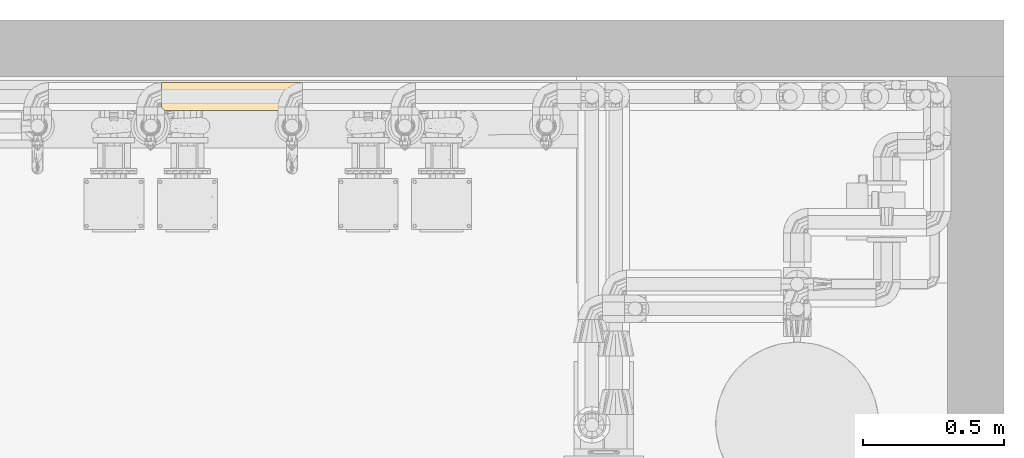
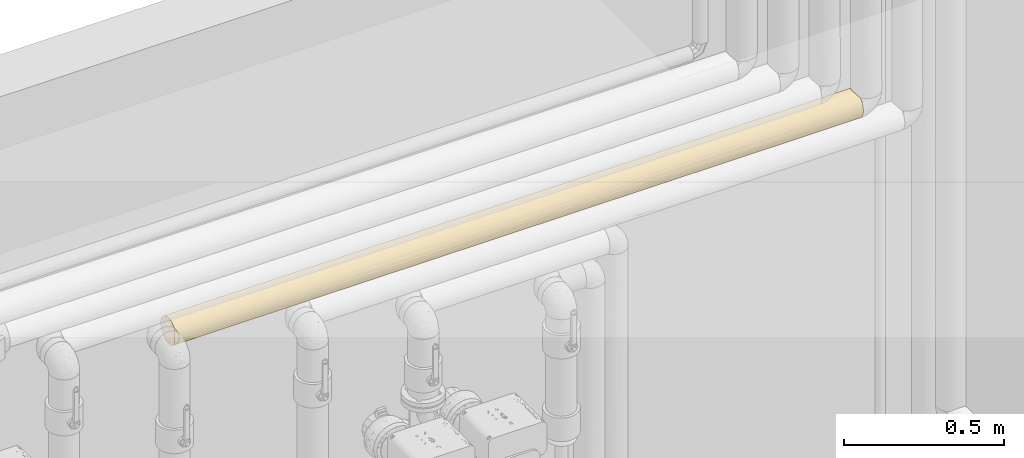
# One storey, part 7 of 94: 1 covering.
"""IFC2X3 building model written with IfcOpenShell, lengths in millimetres."""

from ifc_helpers import new_model, entity, si_unit, converted_unit, derived_unit, direction, frame, origin, place, context, subcontext, project, spatial, faceted_brep, material, element, save


model = new_model("IFC2X3")

# Units and contexts
model_context = context("Model", 3, precision=0.01, world=origin(), true_north=direction((6.123031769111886e-17, 1.0)))
body_context = subcontext(model_context, "Body", "Model", "MODEL_VIEW")
ifc_project = project(units=[si_unit("LENGTHUNIT", "METRE", prefix="MILLI"), si_unit("AREAUNIT", "SQUARE_METRE"), si_unit("VOLUMEUNIT", "CUBIC_METRE"), converted_unit("PLANEANGLEUNIT", "DEGREE", entity("IfcRatioMeasure", 0.017453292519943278), si_unit("PLANEANGLEUNIT", "RADIAN"), dimensions=[0, 0, 0, 0, 0, 0, 0]), si_unit("MASSUNIT", "GRAM", prefix="KILO"), derived_unit("MASSDENSITYUNIT", [(si_unit("MASSUNIT", "GRAM", prefix="KILO"), 1), (si_unit("LENGTHUNIT", "METRE"), -3)]), derived_unit("IONCONCENTRATIONUNIT", [(si_unit("MASSUNIT", "GRAM", prefix="KILO"), 1), (si_unit("LENGTHUNIT", "METRE"), -3)]), derived_unit("MOMENTOFINERTIAUNIT", [(si_unit("LENGTHUNIT", "METRE"), 4)]), si_unit("TIMEUNIT", "SECOND"), si_unit("FREQUENCYUNIT", "HERTZ"), si_unit("THERMODYNAMICTEMPERATUREUNIT", "DEGREE_CELSIUS"), derived_unit("THERMALTRANSMITTANCEUNIT", [(si_unit("MASSUNIT", "GRAM", prefix="KILO"), 1), (si_unit("THERMODYNAMICTEMPERATUREUNIT", "KELVIN"), -1), (si_unit("TIMEUNIT", "SECOND"), -3)]), derived_unit("THERMALCONDUCTANCEUNIT", [(si_unit("MASSUNIT", "GRAM", prefix="KILO"), 1), (si_unit("THERMODYNAMICTEMPERATUREUNIT", "KELVIN"), -1), (si_unit("TIMEUNIT", "SECOND"), -3), (si_unit("LENGTHUNIT", "METRE"), 1)]), derived_unit("VOLUMETRICFLOWRATEUNIT", [(si_unit("LENGTHUNIT", "METRE"), 3), (si_unit("TIMEUNIT", "SECOND"), -1)]), derived_unit("MASSFLOWRATEUNIT", [(si_unit("MASSUNIT", "GRAM", prefix="KILO"), 1), (si_unit("TIMEUNIT", "SECOND"), -1)]), derived_unit("ROTATIONALFREQUENCYUNIT", [(si_unit("TIMEUNIT", "SECOND"), -1)]), si_unit("ELECTRICCURRENTUNIT", "AMPERE"), si_unit("ELECTRICVOLTAGEUNIT", "VOLT"), si_unit("POWERUNIT", "WATT"), si_unit("FORCEUNIT", "NEWTON", prefix="KILO"), si_unit("ILLUMINANCEUNIT", "LUX"), si_unit("LUMINOUSFLUXUNIT", "LUMEN"), si_unit("LUMINOUSINTENSITYUNIT", "CANDELA"), derived_unit("USERDEFINED", [(si_unit("MASSUNIT", "GRAM", prefix="KILO"), -1), (si_unit("LENGTHUNIT", "METRE"), -2), (si_unit("TIMEUNIT", "SECOND"), 3), (si_unit("LUMINOUSFLUXUNIT", "LUMEN"), 1)]), derived_unit("USERDEFINED", [(si_unit("MASSUNIT", "GRAM", prefix="KILO"), 1), (si_unit("TIMEUNIT", "SECOND"), -3), (si_unit("LENGTHUNIT", "METRE"), 3), (si_unit("ELECTRICCURRENTUNIT", "AMPERE"), -2)]), derived_unit("SOUNDPOWERUNIT", [(si_unit("MASSUNIT", "GRAM", prefix="KILO"), 1), (si_unit("TIMEUNIT", "SECOND"), -3), (si_unit("LENGTHUNIT", "METRE"), 2)]), derived_unit("SOUNDPRESSUREUNIT", [(si_unit("MASSUNIT", "GRAM", prefix="KILO"), 1), (si_unit("LENGTHUNIT", "METRE"), -1), (si_unit("TIMEUNIT", "SECOND"), -2)]), derived_unit("LINEARVELOCITYUNIT", [(si_unit("LENGTHUNIT", "METRE"), 1), (si_unit("TIMEUNIT", "SECOND"), -1)]), si_unit("PRESSUREUNIT", "PASCAL"), derived_unit("USERDEFINED", [(si_unit("MASSUNIT", "GRAM", prefix="KILO"), 1), (si_unit("LENGTHUNIT", "METRE"), -2), (si_unit("TIMEUNIT", "SECOND"), -2)]), derived_unit("LINEARFORCEUNIT", [(si_unit("MASSUNIT", "GRAM", prefix="KILO"), 1), (si_unit("TIMEUNIT", "SECOND"), -2)]), derived_unit("PLANARFORCEUNIT", [(si_unit("MASSUNIT", "GRAM", prefix="KILO"), 1), (si_unit("LENGTHUNIT", "METRE"), -1), (si_unit("TIMEUNIT", "SECOND"), -2)]), derived_unit("SPECIFICHEATCAPACITYUNIT", [(si_unit("THERMODYNAMICTEMPERATUREUNIT", "KELVIN"), -1), (si_unit("LENGTHUNIT", "METRE"), 2), (si_unit("TIMEUNIT", "SECOND"), -2)]), derived_unit("HEATINGVALUEUNIT", [(si_unit("LENGTHUNIT", "METRE"), 2), (si_unit("TIMEUNIT", "SECOND"), -2)]), derived_unit("VAPORPERMEABILITYUNIT", [(si_unit("LENGTHUNIT", "METRE"), -1), (si_unit("TIMEUNIT", "SECOND"), 1)]), derived_unit("DYNAMICVISCOSITYUNIT", [(si_unit("MASSUNIT", "GRAM", prefix="KILO"), 1), (si_unit("TIMEUNIT", "SECOND"), -1), (si_unit("LENGTHUNIT", "METRE"), -1)]), derived_unit("THERMALEXPANSIONCOEFFICIENTUNIT", [(si_unit("THERMODYNAMICTEMPERATUREUNIT", "KELVIN"), -1)]), derived_unit("MODULUSOFELASTICITYUNIT", [(si_unit("MASSUNIT", "GRAM", prefix="KILO"), 1), (si_unit("LENGTHUNIT", "METRE"), -1), (si_unit("TIMEUNIT", "SECOND"), -2)]), derived_unit("ISOTHERMALMOISTURECAPACITYUNIT", [(si_unit("LENGTHUNIT", "METRE"), 3), (si_unit("MASSUNIT", "GRAM", prefix="KILO"), -1)]), derived_unit("MOISTUREDIFFUSIVITYUNIT", [(si_unit("TIMEUNIT", "SECOND"), -1), (si_unit("LENGTHUNIT", "METRE"), 2)])], contexts=[model_context])

# Site, building, storey
site_placement = place(None, origin())
site = spatial("IfcSite", under=ifc_project, at=site_placement, Name="Default", CompositionType="ELEMENT")
building_placement = place(site_placement, origin())
building = spatial("IfcBuilding", under=site, at=building_placement, CompositionType="ELEMENT")
storey_placement = place(building_placement, origin())
storey = spatial("IfcBuildingStorey", under=building, at=storey_placement, Name="Niveau 0", CompositionType="ELEMENT", Elevation=0.0)

# Covering
ifc_material = material(Name="Isolation - Laine minérale")
covering_placement = place(storey_placement, frame((-8535.741137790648, 9976.120352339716, 2600.7252722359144)))
element("IfcCovering", 1, at=covering_placement, inside=storey, material=ifc_material, Name="Isolation des canalisations:Laine minérale", ObjectType="Isolation des canalisations:Laine minérale", PredefinedType="INSULATION", context=body_context, shape_type="Brep", body=[
    faceted_brep([(1.5952722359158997, 20.474956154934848, -89.43799982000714), (1.5952722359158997, 12.725272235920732, -81.8661922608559), (1.5952722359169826, 12.725272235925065, -19.584352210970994), (1.5952722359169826, 20.474956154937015, -12.012544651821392), (1.5952722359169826, 29.696487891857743, -6.323164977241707), (1.5952722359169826, 39.940498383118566, -2.7935963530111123), (1.5952722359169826, 50.72527223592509, -1.5952722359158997), (1.5952722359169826, 63.44105192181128, -3.26933639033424), (1.5952722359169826, 75.29027223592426, -8.177444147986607), (1.5952722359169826, 85.46542839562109, -15.985116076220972), (1.5952722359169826, 93.27310032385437, -26.160272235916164), (1.5952722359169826, 98.18120808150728, -38.00949255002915), (1.5952722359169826, 99.85527223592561, -50.72527223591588), (1.5952722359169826, 98.18120808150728, -63.44105192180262), (1.5952722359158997, 93.27310032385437, -75.29027223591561), (1.5952722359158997, 85.46542839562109, -85.4654283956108), (1.5952722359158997, 75.29027223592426, -93.27310032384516), (1.5952722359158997, 63.44105192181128, -98.18120808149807), (1.5952722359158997, 50.72527223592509, -99.85527223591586), (1.5952722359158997, 39.94049838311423, -98.65694811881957), (1.5952722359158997, 29.69648789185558, -95.12737949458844), (2488.5688247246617, 2.7935963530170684, -39.94049838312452), (2488.5688247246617, 1.5952722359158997, -50.725272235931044), (2488.5688247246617, 3.26933639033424, -63.441051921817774), (2488.5688247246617, 8.17744414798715, -75.29027223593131), (2488.5688247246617, 15.98511607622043, -85.46542839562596), (2488.5688247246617, 26.160272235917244, -93.27310032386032), (2488.5688247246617, 38.00949255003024, -98.18120808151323), (2488.5688247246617, 50.72527223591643, -99.85527223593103), (2488.5688247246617, 63.44105192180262, -98.18120808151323), (2488.5688247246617, 75.29027223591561, -93.27310032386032), (2488.5688247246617, 85.46542839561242, -85.46542839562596), (2488.5688247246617, 93.2731003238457, -75.29027223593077), (2488.5688247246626, 98.18120808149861, -63.441051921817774), (2488.5688247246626, 99.85527223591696, -50.725272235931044), (2488.5688247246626, 98.65694811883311, -39.94049838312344), (2488.5688247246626, 95.12737949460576, -29.696487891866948), (2488.5688247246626, 89.43799982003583, -20.474956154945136), (2488.5688247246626, 81.86619226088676, -12.72527223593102), (2488.5688247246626, 19.58435221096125, -12.72527223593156), (2488.5688247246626, 12.012544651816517, -20.474956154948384), (2488.5688247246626, 6.323164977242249, -29.69648789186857), (1575.5464992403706, 98.2839806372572, -63.051105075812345), (1480.0205499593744, 94.74893340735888, -72.53522769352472), (1245.082059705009, 97.40409833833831, -66.04989600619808), (895.5550591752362, 97.65590870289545, -65.26047986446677), (980.5685888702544, 99.85527223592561, -50.725272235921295), (2199.2185860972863, 96.11547365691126, -69.52650929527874), (2087.232544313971, 89.70272180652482, -80.63372129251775), (1853.8753267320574, 96.11547364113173, -69.52650933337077), (290.94551312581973, 69.52650923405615, -96.11547368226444), (1907.1537795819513, 98.94398934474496, -60.14398872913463), (1999.0821664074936, 99.85527223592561, -50.72527223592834), (2198.228900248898, 99.13030016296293, -59.13420625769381), (335.0887098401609, 89.7027217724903, -80.63372133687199), (686.7415258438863, 86.8168293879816, -84.05928493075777), (402.9315564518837, 80.63372118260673, -89.70272189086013), (636.2887755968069, 69.52650920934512, -96.11547369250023), (1726.7221383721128, 80.63372113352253, -89.70272192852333), (2155.075390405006, 80.63372119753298, -89.70272187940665), (2037.6739104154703, 69.52650919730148, -96.11547369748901), (583.0103232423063, 60.14398863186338, -98.94398936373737), (935.234132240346, 62.92499750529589, -98.31648574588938), (1509.5956845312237, 50.725272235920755, -99.85527223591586), (1377.3387830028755, 60.02615923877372, -98.96685596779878), (1691.929162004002, 59.44445166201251, -99.07537885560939), (491.08193055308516, 99.85527223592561, -50.725272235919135), (293.27910958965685, 99.12007721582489, -59.19284278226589), (491.08202821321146, 50.72527223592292, -99.85527223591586), (291.93519931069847, 59.134206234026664, -99.13030016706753), (255.3186657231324, 96.11547360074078, -69.52650943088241), (2179.701363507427, 59.941457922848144, -98.98310912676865), (1351.5438391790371, 84.07308961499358, -86.80407454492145), (1257.4003927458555, 77.20650238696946, -92.10765193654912), (996.5654735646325, 79.33498829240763, -90.66574102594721), (1245.0820514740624, 68.9906709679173, -96.33373755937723), (571.4103758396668, 96.11547354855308, -69.52650955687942), (582.3453862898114, 98.95894513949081, -60.067097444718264), (1656.4315539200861, 90.1667021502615, -80.0191368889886), (1999.0824405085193, 50.72527223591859, -99.85527223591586), (1632.510160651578, 69.55215779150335, -96.1048412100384), (697.3796719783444, 79.16913960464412, -90.78402045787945), (826.926857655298, 93.73074233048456, -74.4799863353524), (583.0533996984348, 91.91602984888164, -77.50359158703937), (1038.3943429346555, 89.70272172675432, -80.63372139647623), (903.2354739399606, 71.7078331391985, -95.14924141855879), (1384.0998699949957, 90.2211719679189, -79.9456556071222), (1509.5955080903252, 99.85527223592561, -50.72527223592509), (1245.082048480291, 99.85527223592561, -50.72527223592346), (980.5687841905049, 50.725272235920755, -99.85527223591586), (1245.0824202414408, 50.72527223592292, -99.85527223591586), (2199.218585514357, 5.335070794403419, -69.52650924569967), (2198.228898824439, 2.3202443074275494, -59.134206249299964), (1907.153776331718, 2.5065551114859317, -60.143988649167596), (2087.232543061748, 11.747822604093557, -80.63372121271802), (502.21192770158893, 1.5952722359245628, -50.725272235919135), (746.9552548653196, 2.8295993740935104, -61.6688283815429), (991.6985831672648, 1.5952722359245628, -50.72527223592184), (349.1927971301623, 2.70167345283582, -61.09305212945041), (12.725272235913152, 1.5952722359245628, -50.72527223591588), (982.6109476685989, 4.013662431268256, -65.9496740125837), (1250.6460500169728, 1.5952722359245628, -50.72527223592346), (1999.0821692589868, 1.5952722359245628, -50.7252722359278), (2000.4422411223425, 31.924035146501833, -96.11547364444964), (2155.0753892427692, 20.81682319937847, -89.70272182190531), (293.69353604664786, 24.928477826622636, -92.53773805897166), (537.0502444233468, 11.046301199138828, -79.69657109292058), (257.53322263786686, 10.290426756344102, -78.63190533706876), (372.88406535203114, 16.39074909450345, -85.86637951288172), (12.003444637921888, 2.3170998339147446, -59.11608534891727), (621.657352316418, 24.92839652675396, -92.53768789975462), (1667.098475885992, 30.598791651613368, -95.54359080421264), (1754.3388412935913, 41.120737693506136, -98.90732092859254), (1494.1138414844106, 37.66890759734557, -98.08863616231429), (2171.5402721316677, 41.15430704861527, -98.91400043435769), (6.3554633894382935, 7.965081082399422, -74.91872078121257), (475.0645165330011, 6.14323949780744, -71.3698661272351), (9.859172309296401, 4.461372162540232, -67.26033951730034), (372.88541661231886, 34.72089516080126, -97.17542632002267), (882.3637379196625, 21.972322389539, -90.56275176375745), (802.273279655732, 37.30077679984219, -97.98561313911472), (1245.0820484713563, 33.49954413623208, -96.7364794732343), (698.4412095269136, 16.436613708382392, -85.91113298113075), (1853.875324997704, 5.335070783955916, -69.52650922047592), (1574.759821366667, 3.16531736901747, -63.04629463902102), (1522.1824817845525, 7.819386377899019, -74.65938719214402), (766.7558350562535, 6.002906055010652, -71.06407414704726), (1757.6698663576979, 13.10619390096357, -82.32530143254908), (1896.339175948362, 18.683387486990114, -87.96872161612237), (1425.8216302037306, 14.233302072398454, -83.6204544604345), (1150.399671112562, 19.709460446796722, -88.8274548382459), (1637.6029625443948, 20.816823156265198, -89.70272178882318), (1112.8253168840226, 41.972378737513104, -99.06928691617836), (1202.0746524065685, 9.045684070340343, -76.73620898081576), (1509.595513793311, 1.5952722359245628, -50.72527223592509), (1250.6470491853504, 4.291159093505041, -66.77613005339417), (883.7993463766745, 10.525552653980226, -78.96955387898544), (2117.9645096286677, 15.584164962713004, -16.390749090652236), (2200.776664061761, 8.912806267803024, -24.928478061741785), (2141.2740757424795, 40.3775169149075, -2.697354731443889), (2480.30492465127, 34.19020495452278, -4.4613721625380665), (2478.1606523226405, 42.33445912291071, -2.317099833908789), (372.8840648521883, 16.390749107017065, -15.584164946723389), (349.1927969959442, 2.7016734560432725, -40.35749232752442), (9.859172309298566, 4.461372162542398, -34.19020495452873), (12.003444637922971, 2.3170998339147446, -42.33445912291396), (828.4950245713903, 3.394477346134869, -37.551329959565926), (2232.852056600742, 22.81875873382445, -10.290344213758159), (2017.937008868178, 30.081923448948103, -6.142662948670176), (1953.5055355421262, 21.760180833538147, -11.041769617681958), (889.8964574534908, 18.33255695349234, -13.786554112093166), (650.6996790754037, 14.26538273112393, -17.794536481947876), (883.7993452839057, 10.525552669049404, -22.48099057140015), (289.54073043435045, 24.92847809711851, -8.912806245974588), (372.88541567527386, 34.72089518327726, -4.2751181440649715), (2483.8086335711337, 26.53182369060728, -7.965081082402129), (1793.6426579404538, 15.510614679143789, -16.466188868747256), (1870.2139516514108, 8.912856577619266, -24.928396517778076), (1250.6470484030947, 3.0831487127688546, -38.72589866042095), (2117.963154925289, 4.275118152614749, -34.72089515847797), (1662.6706908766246, 37.52622168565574, -3.4014731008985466), (1987.9503542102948, 50.72527223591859, -1.5952722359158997), (1498.4618836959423, 50.725272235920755, -1.5952722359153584), (1239.517048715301, 38.7368704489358, -3.080386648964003), (1688.1668571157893, 3.4673940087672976, -37.29211008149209), (2477.438824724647, 50.72527223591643, -1.5952722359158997), (802.273277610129, 37.30077683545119, -3.464931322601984), (980.5680869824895, 50.72527223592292, -1.5952722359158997), (442.867590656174, 10.679569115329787, -22.263041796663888), (6.355463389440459, 7.965081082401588, -26.5318236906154), (475.06451615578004, 6.143239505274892, -30.0806783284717), (491.0796164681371, 50.72527223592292, -1.5952722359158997), (621.6573510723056, 24.928396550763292, -8.912856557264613), (1372.2063393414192, 8.696880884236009, -25.281781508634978), (1472.1817045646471, 15.013320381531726, -16.984889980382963), (1165.7153240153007, 13.429635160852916, -18.744147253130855), (1612.3992215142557, 22.484234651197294, -10.523273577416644), (1121.831778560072, 25.29379290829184, -8.68961167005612), (1239.5129221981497, 50.725272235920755, -1.5952722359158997), (1087.85296403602, 6.265983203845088, -29.817653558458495), (1407.4567306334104, 29.86396184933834, -6.244235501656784), (2117.280032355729, 85.86637952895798, -16.390749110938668), (1953.1138534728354, 79.69657111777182, -11.04630121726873), (2232.6308747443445, 78.63190535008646, -10.290426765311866), (2140.9713001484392, 61.093052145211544, -2.7016734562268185), (2478.1606523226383, 59.116085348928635, -2.317099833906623), (1868.5067461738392, 92.53768791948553, -24.92839655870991), (2196.4705615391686, 92.53773807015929, -24.92847784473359), (2117.27868147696, 97.17542632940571, -34.72089518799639), (1687.8908200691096, 97.98561315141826, -37.30077684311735), (2015.099580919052, 71.36986615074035, -6.143239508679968), (2480.304924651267, 67.2603395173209, -4.461372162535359), (2483.808633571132, 74.91872078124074, -7.965081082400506), (402.9315541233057, 80.6337212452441, -11.747822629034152), (290.9455118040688, 69.52650927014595, -5.335070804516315), (1607.8003605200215, 90.56275179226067, -21.972322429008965), (1245.0820486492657, 96.7364795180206, -33.49954425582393), (489.721856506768, 96.11547366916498, -31.924035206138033), (335.08870780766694, 89.70272184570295, -20.816823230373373), (291.93519832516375, 59.13420626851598, -2.3202443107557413), (996.0502558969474, 98.08863621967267, -37.668907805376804), (1507.5531499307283, 65.94967404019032, -4.013662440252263), (1743.2088428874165, 61.66882840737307, -2.829599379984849), (1723.4082626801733, 71.06407417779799, -6.0029060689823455), (823.0656220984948, 95.54359085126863, -30.598791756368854), (735.8252536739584, 98.90732094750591, -41.12073778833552), (318.6238247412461, 98.91400043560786, -41.15430705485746), (583.0103213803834, 60.14398867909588, -2.50655511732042), (636.288772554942, 69.52650927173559, -5.335070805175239), (915.404275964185, 63.04629470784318, -3.16531738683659), (967.9816165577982, 74.65938730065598, -7.819386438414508), (1791.7228888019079, 85.91113300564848, -16.43661373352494), (732.494233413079, 82.32530142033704, -13.106193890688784), (593.824921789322, 87.96872160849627, -18.683387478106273), (1064.3424709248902, 83.62045456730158, -14.23330216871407), (1339.7644269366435, 88.82745489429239, -19.709460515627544), (852.5611357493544, 89.70272184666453, -20.816823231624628), (1377.3387824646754, 99.06928693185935, -41.9723788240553), (1288.0894462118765, 76.73620900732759, -9.04568408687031), (1239.5170483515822, 66.77613008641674, -4.2911591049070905), (1606.364751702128, 78.9695539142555, -10.525552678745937)], [[[0, 1, 2, 3, 4, 5, 6, 7, 8, 9, 10, 11, 12, 13, 14, 15, 16, 17, 18, 19, 20]], [[21, 22, 23, 24, 25, 26, 27, 28, 29, 30, 31, 32, 33, 34, 35, 36, 37, 38, 39, 40, 41]], [[42, 43, 44]], [[44, 45, 46]], [[33, 32, 47]], [[48, 49, 47]], [[17, 16, 50]], [[51, 52, 53]], [[48, 32, 31]], [[54, 55, 56]], [[57, 50, 56]], [[58, 59, 60]], [[61, 57, 62]], [[47, 53, 33]], [[30, 29, 60]], [[54, 56, 15]], [[63, 64, 65]], [[12, 66, 67]], [[61, 68, 69]], [[14, 13, 70]], [[29, 71, 60]], [[72, 73, 74]], [[59, 48, 31]], [[62, 75, 64]], [[56, 16, 15]], [[76, 70, 67]], [[69, 17, 50]], [[76, 77, 45]], [[78, 58, 72]], [[59, 58, 48]], [[28, 79, 71]], [[65, 64, 80]], [[31, 30, 59]], [[33, 53, 34]], [[78, 48, 58]], [[15, 14, 54]], [[17, 69, 18]], [[55, 74, 81]], [[55, 81, 56]], [[75, 80, 64]], [[30, 60, 59]], [[76, 67, 77]], [[70, 54, 14]], [[82, 55, 83]], [[42, 51, 49]], [[45, 82, 76]], [[82, 83, 76]], [[55, 84, 74]], [[72, 74, 84]], [[75, 62, 85]], [[43, 86, 44]], [[58, 80, 73]], [[86, 43, 78]], [[48, 78, 49]], [[48, 47, 32]], [[51, 53, 47]], [[56, 50, 16]], [[61, 69, 50]], [[51, 47, 49]], [[34, 53, 52]], [[61, 50, 57]], [[18, 69, 68]], [[78, 43, 49]], [[87, 52, 51]], [[42, 44, 88]], [[87, 51, 42]], [[57, 85, 62]], [[89, 68, 61]], [[64, 63, 90]], [[89, 61, 62]], [[62, 64, 90]], [[89, 62, 90]], [[80, 75, 73]], [[58, 60, 80]], [[60, 71, 65]], [[60, 65, 80]], [[79, 63, 65]], [[49, 43, 42]], [[78, 72, 86]], [[72, 84, 86]], [[44, 86, 84]], [[67, 70, 13]], [[70, 76, 83]], [[12, 67, 13]], [[67, 66, 77]], [[66, 46, 77]], [[88, 87, 42]], [[46, 45, 77]], [[82, 44, 84]], [[44, 82, 45]], [[55, 82, 84]], [[55, 54, 83]], [[70, 83, 54]], [[85, 81, 74]], [[57, 56, 81]], [[28, 71, 29]], [[65, 71, 79]], [[44, 46, 88]], [[73, 72, 58]], [[85, 73, 75]], [[81, 85, 57]], [[85, 74, 73]], [[91, 92, 93]], [[24, 94, 25]], [[95, 96, 97]], [[98, 95, 99]], [[97, 100, 101]], [[22, 102, 92]], [[103, 27, 26]], [[91, 94, 24]], [[96, 95, 98]], [[94, 104, 25]], [[20, 105, 0]], [[106, 107, 108]], [[98, 99, 109]], [[108, 105, 110]], [[111, 112, 103]], [[63, 113, 90]], [[28, 27, 114]], [[115, 116, 117]], [[20, 19, 118]], [[98, 117, 116]], [[119, 120, 121]], [[110, 105, 118]], [[24, 23, 91]], [[0, 108, 1]], [[106, 108, 122]], [[68, 120, 118]], [[123, 124, 125]], [[104, 26, 25]], [[100, 96, 126]], [[63, 79, 112]], [[19, 18, 68]], [[112, 79, 114]], [[114, 27, 103]], [[122, 108, 110]], [[107, 115, 1]], [[19, 68, 118]], [[120, 68, 89]], [[127, 123, 125]], [[91, 93, 123]], [[128, 103, 104]], [[129, 130, 131]], [[118, 120, 110]], [[132, 113, 121]], [[119, 121, 130]], [[133, 129, 125]], [[124, 123, 93]], [[94, 127, 128]], [[103, 26, 104]], [[92, 91, 23]], [[94, 91, 123]], [[22, 92, 23]], [[92, 102, 93]], [[102, 134, 93]], [[124, 135, 125]], [[93, 134, 124]], [[124, 134, 101]], [[133, 125, 135]], [[129, 127, 125]], [[133, 135, 100]], [[133, 136, 130]], [[136, 122, 119]], [[131, 130, 121]], [[130, 129, 133]], [[127, 129, 131]], [[128, 127, 131]], [[127, 94, 123]], [[126, 96, 116]], [[124, 101, 135]], [[0, 105, 108]], [[20, 118, 105]], [[119, 122, 110]], [[136, 126, 106]], [[136, 106, 122]], [[107, 116, 115]], [[108, 107, 1]], [[116, 107, 106]], [[120, 119, 110]], [[136, 119, 130]], [[128, 131, 111]], [[94, 128, 104]], [[117, 98, 109]], [[96, 98, 116]], [[103, 128, 111]], [[113, 112, 111]], [[131, 121, 111]], [[113, 111, 121]], [[90, 113, 132]], [[63, 112, 113]], [[90, 132, 89]], [[121, 120, 132]], [[120, 89, 132]], [[112, 114, 103]], [[28, 114, 79]], [[97, 96, 100]], [[106, 126, 116]], [[136, 133, 100]], [[100, 126, 136]], [[100, 135, 101]], [[137, 138, 40]], [[139, 140, 141]], [[142, 3, 2]], [[143, 144, 145]], [[146, 95, 97]], [[147, 148, 149]], [[150, 151, 152]], [[4, 153, 154]], [[155, 140, 148]], [[153, 3, 142]], [[143, 145, 99]], [[156, 157, 137]], [[158, 146, 97]], [[137, 40, 39]], [[159, 21, 41]], [[160, 161, 162]], [[159, 138, 157]], [[99, 95, 143]], [[162, 163, 160]], [[102, 164, 134]], [[154, 5, 4]], [[141, 165, 139]], [[166, 163, 167]], [[168, 169, 170]], [[166, 167, 171]], [[172, 154, 153]], [[102, 22, 21]], [[173, 157, 174]], [[147, 39, 155]], [[165, 161, 139]], [[174, 175, 173]], [[169, 144, 170]], [[171, 6, 5]], [[164, 158, 134]], [[41, 138, 159]], [[159, 164, 102]], [[154, 166, 171]], [[149, 176, 156]], [[168, 2, 169]], [[168, 152, 151]], [[159, 157, 164]], [[102, 21, 159]], [[154, 172, 166]], [[171, 5, 154]], [[157, 173, 164]], [[158, 97, 101, 134]], [[157, 156, 174]], [[170, 146, 152]], [[172, 177, 166]], [[163, 162, 178, 167]], [[175, 150, 152]], [[148, 160, 176]], [[164, 173, 158]], [[179, 158, 173]], [[166, 177, 163]], [[180, 163, 177]], [[160, 163, 180]], [[160, 148, 139]], [[146, 158, 179]], [[146, 170, 143]], [[40, 138, 41]], [[157, 138, 137]], [[3, 153, 4]], [[172, 153, 142]], [[149, 156, 137]], [[156, 176, 174]], [[176, 177, 174]], [[175, 152, 179]], [[174, 177, 175]], [[150, 175, 177]], [[177, 172, 150]], [[151, 172, 142]], [[137, 39, 147]], [[176, 149, 148]], [[148, 147, 155]], [[137, 147, 149]], [[172, 151, 150]], [[168, 151, 142]], [[168, 142, 2]], [[152, 168, 170]], [[146, 143, 95]], [[144, 143, 170]], [[160, 139, 161]], [[140, 139, 148]], [[175, 179, 173]], [[146, 179, 152]], [[177, 176, 180]], [[160, 180, 176]], [[181, 182, 183]], [[184, 165, 185]], [[186, 187, 188]], [[52, 189, 188]], [[37, 181, 38]], [[36, 187, 37]], [[190, 191, 192]], [[181, 187, 186]], [[184, 191, 190]], [[193, 8, 194]], [[195, 189, 196]], [[197, 11, 10]], [[10, 9, 198]], [[8, 193, 9]], [[6, 171, 199]], [[184, 161, 165]], [[193, 198, 9]], [[46, 200, 88]], [[201, 202, 203]], [[204, 205, 197]], [[46, 66, 205]], [[202, 161, 184]], [[12, 11, 206]], [[161, 202, 162]], [[194, 199, 207]], [[208, 209, 210]], [[36, 35, 188]], [[211, 182, 181]], [[162, 201, 178]], [[8, 7, 194]], [[35, 34, 52]], [[205, 66, 206]], [[206, 11, 197]], [[211, 181, 186]], [[183, 192, 38]], [[35, 52, 188]], [[189, 52, 87]], [[212, 208, 210]], [[194, 207, 208]], [[213, 197, 198]], [[214, 215, 216]], [[188, 189, 186]], [[217, 200, 196]], [[195, 196, 215]], [[218, 214, 210]], [[209, 208, 207]], [[193, 212, 213]], [[197, 10, 198]], [[199, 194, 7]], [[193, 194, 208]], [[6, 199, 7]], [[199, 171, 207]], [[171, 167, 207]], [[209, 219, 210]], [[207, 167, 209]], [[209, 167, 178]], [[218, 210, 219]], [[214, 212, 210]], [[218, 219, 201]], [[218, 220, 215]], [[220, 211, 195]], [[216, 215, 196]], [[215, 214, 218]], [[212, 214, 216]], [[213, 212, 216]], [[212, 193, 208]], [[203, 202, 190]], [[209, 178, 219]], [[37, 187, 181]], [[36, 188, 187]], [[195, 211, 186]], [[220, 203, 182]], [[220, 182, 211]], [[183, 190, 192]], [[181, 183, 38]], [[190, 183, 182]], [[189, 195, 186]], [[220, 195, 215]], [[213, 216, 204]], [[193, 213, 198]], [[191, 184, 185]], [[202, 184, 190]], [[197, 213, 204]], [[200, 205, 204]], [[216, 196, 204]], [[200, 204, 196]], [[217, 87, 88]], [[46, 205, 200]], [[217, 189, 87]], [[200, 217, 88]], [[189, 217, 196]], [[205, 206, 197]], [[12, 206, 66]], [[162, 202, 201]], [[182, 203, 190]], [[220, 218, 201]], [[201, 203, 220]], [[201, 219, 178]], [[1, 115, 117, 109, 99, 145, 144, 169, 2]], [[165, 141, 140, 155, 39, 38, 192, 191, 185]]]),
])

save(model, "model.ifc")
